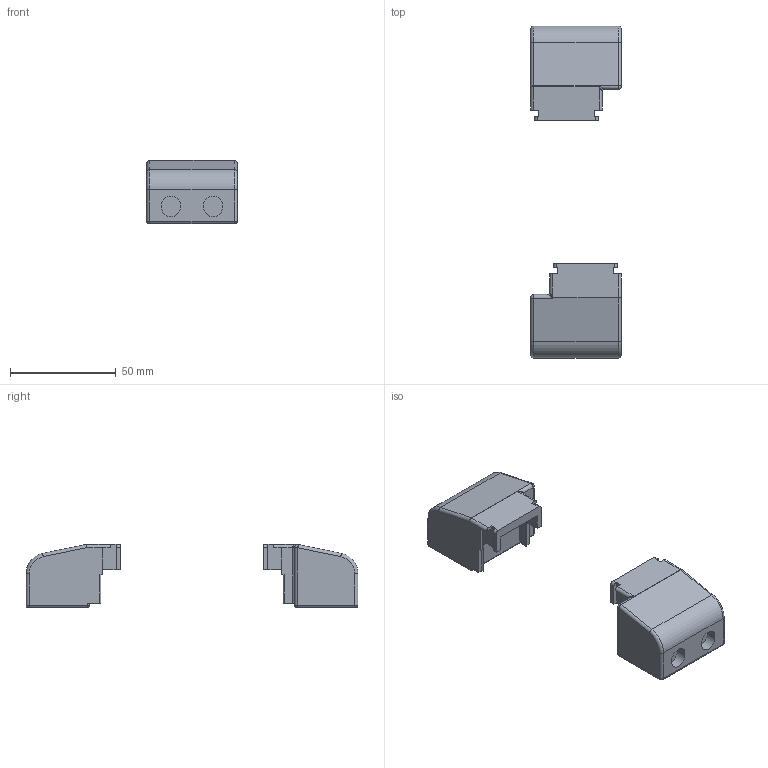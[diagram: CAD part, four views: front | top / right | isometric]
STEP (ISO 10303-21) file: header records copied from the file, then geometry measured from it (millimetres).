
FILE_DESCRIPTION((''),'2;1');
FILE_NAME('DEWI_SR-STD_DMEC_ASSY_97','2015-12-16T',('emanuel.wild'),(''),'PRO/ENGINEER BY PARAMETRIC TECHNOLOGY CORPORATION, 2015200','PRO/ENGINEER BY PARAMETRIC TECHNOLOGY CORPORATION, 2015200','');
FILE_SCHEMA(('AUTOMOTIVE_DESIGN { 1 0 10303 214 1 1 1 1 }'));
Length unit declared in the file: millimetre
Products named in the file (2): DEWI_SR-STD_DMEC; DEWI_SR-STD_DMEC_ASSY_97
Assembly tree (2 placements, depth 2):
  DEWI_SR-STD_DMEC_ASSY_97
    DEWI_SR-STD_DMEC  x2
Bounding box: 42.8 x 157 x 29.8 mm (x, y, z)
Volume: 66408.4 mm3; surface area: 18943.6 mm2
Topology: 2 solids, 2 shells, 196 faces, 504 edges, 316 vertices
Faces by surface type: plane 112, cylinder 58, bspline 12, sphere 8, torus 6
Entity records: 3847 total; most frequent: CARTESIAN_POINT 770, DIRECTION 504, ORIENTED_EDGE 504, EDGE_CURVE 252, VECTOR 180, LINE 180, AXIS2_PLACEMENT_3D 162, VERTEX_POINT 158
